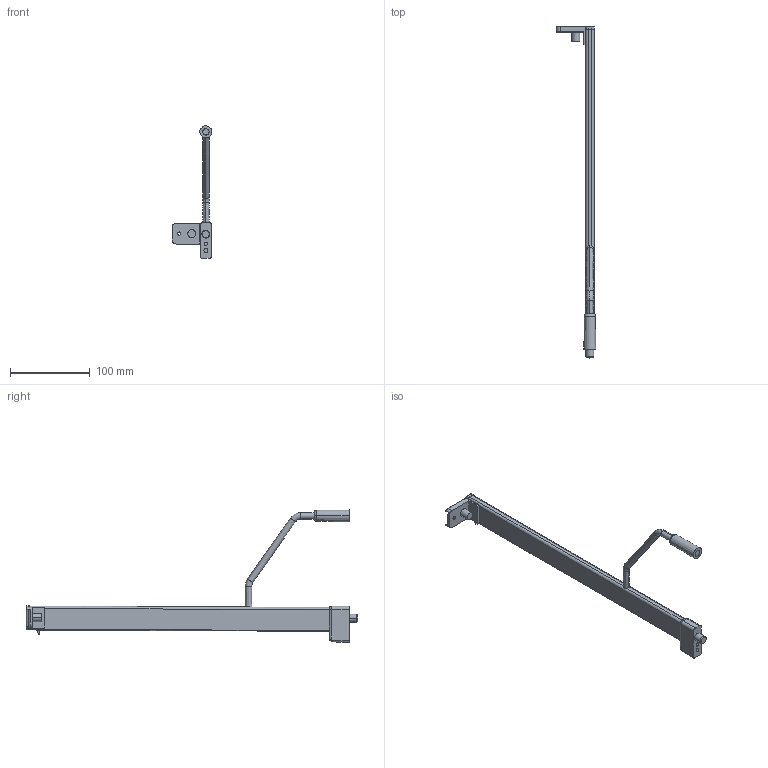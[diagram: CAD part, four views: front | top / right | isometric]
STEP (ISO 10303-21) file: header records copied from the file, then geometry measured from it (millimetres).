
FILE_DESCRIPTION (( 'STEP AP214' ), '1' );
FILE_NAME ('_2S_REL_7606_NL400_RE_Frontstütze.step', '2010-07-01T14:41:53', ( 'grass' ), ( '' ), 'SwSTEP 2.0', 'SolidWorks 2009', '' );
FILE_SCHEMA (( 'AUTOMOTIVE_DESIGN' ));
Length unit declared in the file: millimetre
Products named in the file (1): _2S_REL_7606_NL400_RE_Frontstütze
Bounding box: 49.75 x 415.5 x 165.5 mm (x, y, z)
Volume: 153377.3 mm3; surface area: 43643.1 mm2
Topology: 2 solids, 2 shells, 143 faces, 340 edges, 205 vertices
Faces by surface type: cylinder 61, plane 46, bspline 16, torus 12, cone 6, sphere 2
Entity records: 5406 total; most frequent: CARTESIAN_POINT 2209, ORIENTED_EDGE 676, DIRECTION 652, EDGE_CURVE 338, AXIS2_PLACEMENT_3D 249, VERTEX_POINT 205, LINE 154, VECTOR 154
